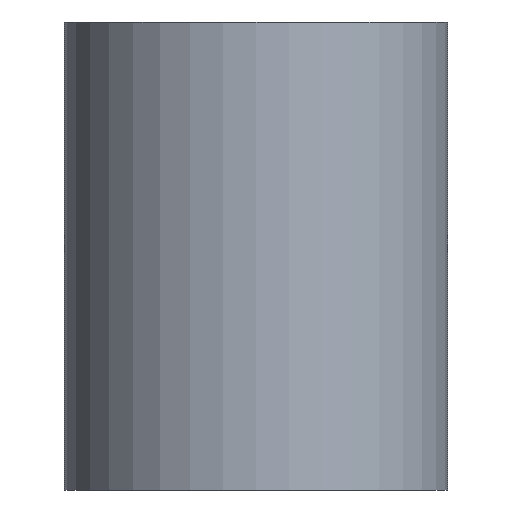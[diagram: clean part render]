
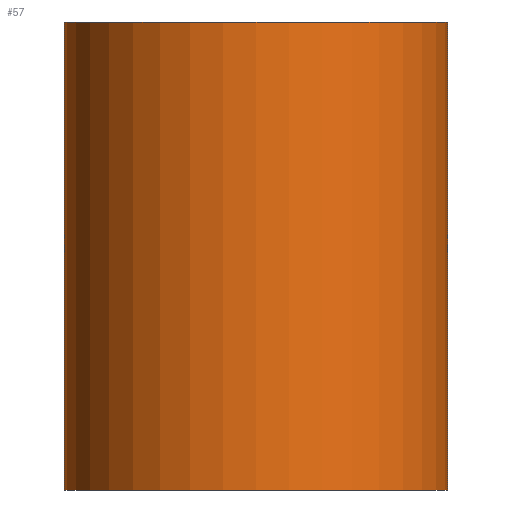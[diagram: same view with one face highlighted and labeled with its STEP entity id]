
A CAD part, front view. The second image highlights one B-rep face of the part: STEP entity #57.
In plain terms, the highlighted cylindrical face has radius 14.294 mm (diameter 28.588 mm), a partial arc.
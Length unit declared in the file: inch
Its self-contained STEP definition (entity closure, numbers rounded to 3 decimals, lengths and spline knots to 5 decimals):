
#8 = VECTOR ( 'NONE', #328, 39.37008 ) ;
#9 = VERTEX_POINT ( 'NONE', #219 ) ;
#21 = DIRECTION ( 'NONE',  ( 0., 0., 1. ) ) ;
#26 = DIRECTION ( 'NONE',  ( 1., 0., 0. ) ) ;
#36 = DIRECTION ( 'NONE',  ( 0., 0., 1. ) ) ;
#37 = VERTEX_POINT ( 'NONE', #248 ) ;
#57 = ADVANCED_FACE ( 'NONE', ( #60 ), #97, .T. ) ;
#60 = FACE_OUTER_BOUND ( 'NONE', #161, .T. ) ;
#62 = CARTESIAN_POINT ( 'NONE',  ( 0., 0., 0. ) ) ;
#71 = CIRCLE ( 'NONE', #216, 0.56275 ) ;
#72 = CARTESIAN_POINT ( 'NONE',  ( 0., 0., 1.25098 ) ) ;
#74 = LINE ( 'NONE', #160, #8 ) ;
#89 = ORIENTED_EDGE ( 'NONE', *, *, #291, .T. ) ;
#97 = CYLINDRICAL_SURFACE ( 'NONE', #120, 0.56275 ) ;
#98 = EDGE_CURVE ( 'NONE', #9, #315, #74, .T. ) ;
#120 = AXIS2_PLACEMENT_3D ( 'NONE', #72, #21, #26 ) ;
#122 = ORIENTED_EDGE ( 'NONE', *, *, #98, .F. ) ;
#143 = LINE ( 'NONE', #320, #247 ) ;
#148 = DIRECTION ( 'NONE',  ( 1., 0., 0. ) ) ;
#152 = CARTESIAN_POINT ( 'NONE',  ( 0., 0., -1.375 ) ) ;
#160 = CARTESIAN_POINT ( 'NONE',  ( -0.56275, 0., 1.25098 ) ) ;
#161 = EDGE_LOOP ( 'NONE', ( #122, #89, #337, #175 ) ) ;
#175 = ORIENTED_EDGE ( 'NONE', *, *, #327, .F. ) ;
#179 = DIRECTION ( 'NONE',  ( 0., 0., 1. ) ) ;
#193 = AXIS2_PLACEMENT_3D ( 'NONE', #62, #179, #148 ) ;
#216 = AXIS2_PLACEMENT_3D ( 'NONE', #152, #267, #294 ) ;
#219 = CARTESIAN_POINT ( 'NONE',  ( -0.56275, 0., -1.375 ) ) ;
#247 = VECTOR ( 'NONE', #36, 39.37008 ) ;
#248 = CARTESIAN_POINT ( 'NONE',  ( 0.56275, 0., 0. ) ) ;
#267 = DIRECTION ( 'NONE',  ( 0., 0., 1. ) ) ;
#291 = EDGE_CURVE ( 'NONE', #9, #301, #71, .T. ) ;
#294 = DIRECTION ( 'NONE',  ( 1., 0., 0. ) ) ;
#301 = VERTEX_POINT ( 'NONE', #342 ) ;
#311 = EDGE_CURVE ( 'NONE', #301, #37, #143, .T. ) ;
#314 = CIRCLE ( 'NONE', #193, 0.56275 ) ;
#315 = VERTEX_POINT ( 'NONE', #340 ) ;
#320 = CARTESIAN_POINT ( 'NONE',  ( 0.56275, 0., 1.25098 ) ) ;
#327 = EDGE_CURVE ( 'NONE', #315, #37, #314, .T. ) ;
#328 = DIRECTION ( 'NONE',  ( 0., 0., 1. ) ) ;
#337 = ORIENTED_EDGE ( 'NONE', *, *, #311, .T. ) ;
#340 = CARTESIAN_POINT ( 'NONE',  ( -0.56275, 0., 0. ) ) ;
#342 = CARTESIAN_POINT ( 'NONE',  ( 0.56275, 0., -1.375 ) ) ;
